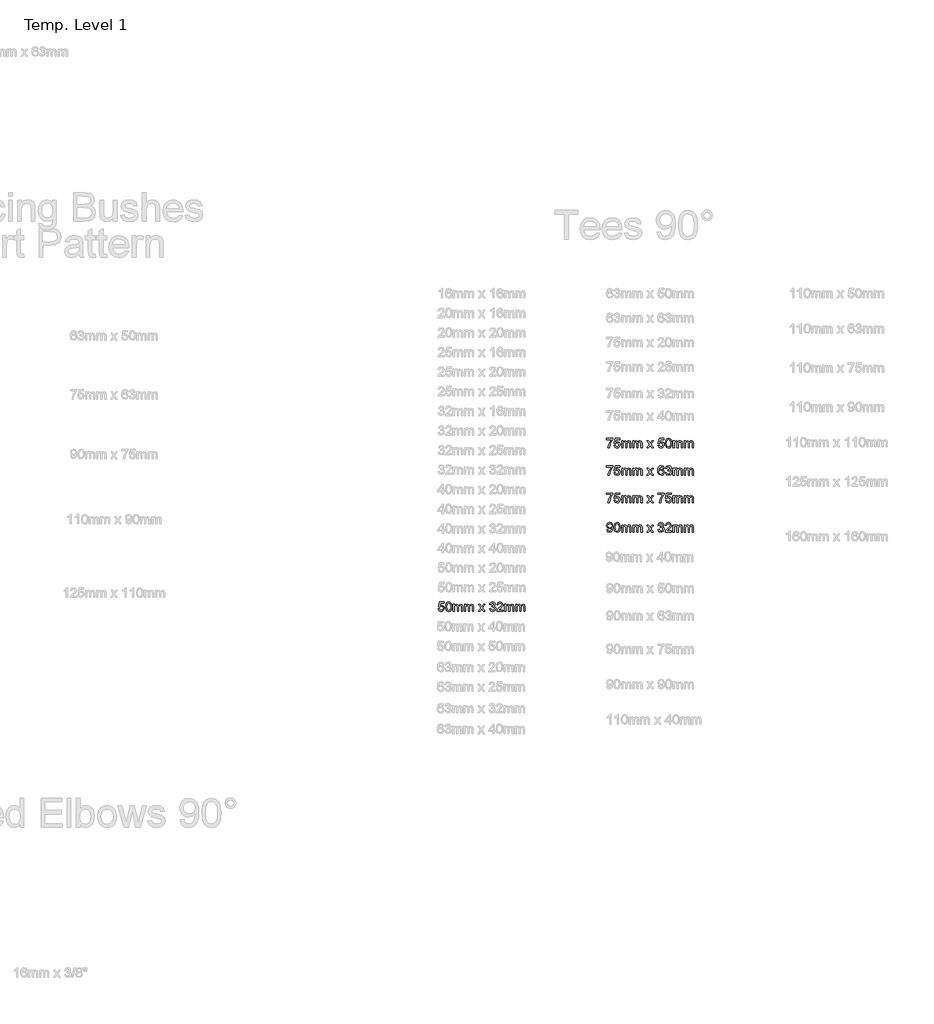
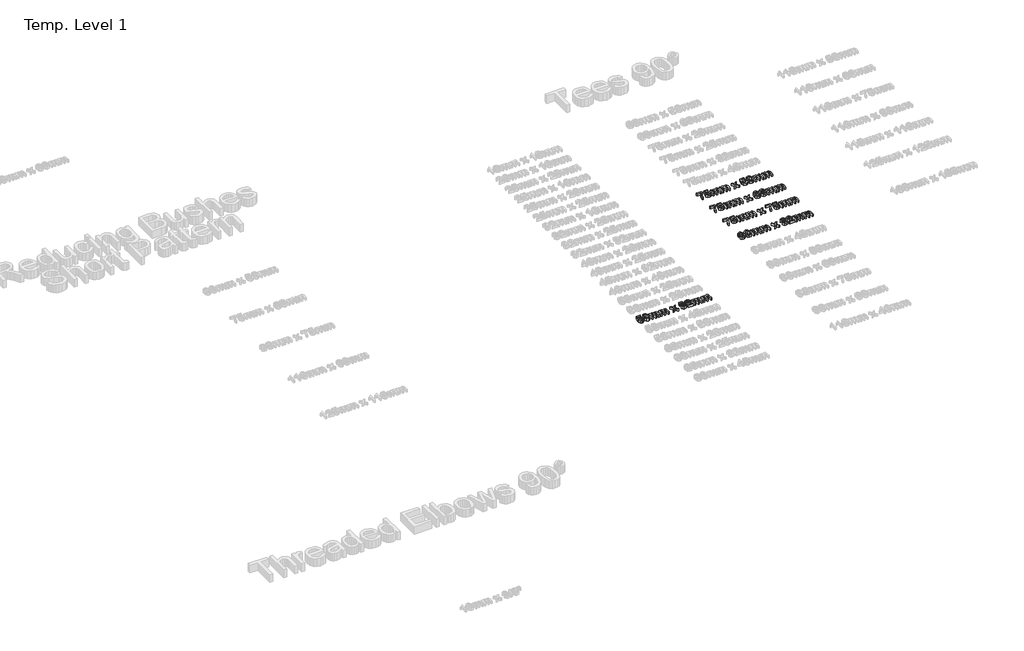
# One storey, part 28 of 62: 5 proxies.
"""IFC4 building model written with IfcOpenShell, lengths in millimetres."""

from ifc_helpers import new_model, si_unit, origin, origin_with_axes, place, context, project, spatial, polyline, outline, extrude, element, save

model = new_model("IFC4")

# Units and contexts
model_context = context("Model", 3, world=origin())
ifc_project = project(units=[si_unit("LENGTHUNIT", "METRE", prefix="MILLI")], contexts=[model_context])

# Site, building, storey
site = spatial("IfcSite", under=ifc_project)
building = spatial("IfcBuilding", under=site)
storey = spatial("IfcBuildingStorey", under=building, Name="Temp. Level 1", Elevation=0.0)

# Proxies
placement = place(None, origin())
element("IfcBuildingElementProxy", 1, Name="50mm Arial", ObjectType="50mm Arial", at=placement, inside=storey, context=model_context, shape_type="SweptSolid", body=[
    extrude(outline(polyline([(26415.7186344, -8956.4795754), (26421.8724806, -8955.7103446), (26424.9734421, -8962.0504888), (26431.4037306, -8964.1718831), (26439.1200767, -8961.2211619), (26441.8724806, -8953.3906331), (26439.2943556, -8946.0829408), (26431.4998844, -8943.4026523), (26426.0972402, -8944.4723638), (26422.6417113, -8947.2488061), (26416.4878652, -8946.4795754), (26421.8724806, -8921.09496), (26445.7186344, -8921.09496), (26445.7186344, -8927.2488061), (26426.8484421, -8927.2488061), (26424.2162306, -8940.8064984), (26433.2186344, -8937.2488061), (26443.741471, -8941.6598638), (26448.0263267, -8953.0060177), (26444.1681536, -8964.4242869), (26438.6272883, -8968.8503686), (26431.3796921, -8970.3257292), (26420.5203171, -8966.5336619), (26415.7186344, -8956.4795754)])), origin_with_axes(), (0.0, 0.0, 1.0), 15.0),
    extrude(outline(polyline([(26453.4109421, -8945.3377484), (26455.2198363, -8931.173085), (26460.5924325, -8923.0060177), (26469.5647883, -8920.3257292), (26476.7522883, -8921.9122677), (26481.7162306, -8926.485585), (26484.600846, -8933.7692388), (26485.7186344, -8945.3377484), (26483.927769, -8959.4423158), (26478.5732017, -8967.6274119), (26469.5647883, -8970.3257292), (26458.3147883, -8965.6382292), (26454.6369036, -8957.3119071), (26453.4109421, -8945.3377484)]), holes=[polyline([(26459.5647883, -8945.3257292), (26462.4494036, -8960.6081811), (26469.5647883, -8964.1718831), (26476.6801729, -8960.5961619), (26479.5647883, -8945.3257292), (26476.7763267, -8930.2175561), (26469.4926729, -8926.4795754), (26462.5455575, -8929.7728446), (26459.5647883, -8945.3257292)])]), origin_with_axes(), (0.0, 0.0, 1.0), 15.0),
    extrude(outline(polyline([(26492.6417113, -8969.5564984), (26492.6417113, -8933.4026523), (26498.7955575, -8933.4026523), (26498.7955575, -8939.3521715), (26503.0263267, -8934.4783734), (26509.0479613, -8932.6334215), (26515.2138267, -8934.5144311), (26518.6032498, -8939.7848638), (26523.4049325, -8934.4212821), (26529.4686344, -8932.6334215), (26537.5155094, -8935.6081811), (26540.334019, -8944.7728446), (26540.334019, -8969.5564984), (26534.1801729, -8969.5564984), (26534.1801729, -8947.4170754), (26533.6092594, -8942.2788542), (26531.5419517, -8939.7488061), (26528.0263267, -8938.7872677), (26521.974644, -8941.25121), (26519.5647883, -8949.1478446), (26519.5647883, -8969.5564984), (26513.4109421, -8969.5564984), (26513.4109421, -8946.7319792), (26511.9866633, -8940.7704408), (26507.3171921, -8938.7872677), (26502.7619036, -8940.1093831), (26499.7330575, -8943.9795754), (26498.7955575, -8951.3233254), (26498.7955575, -8969.5564984), (26492.6417113, -8969.5564984)])), origin_with_axes(), (0.0, 0.0, 1.0), 15.0),
    extrude(outline(polyline([(26549.5647883, -8969.5564984), (26549.5647883, -8933.4026523), (26555.7186344, -8933.4026523), (26555.7186344, -8939.3521715), (26559.9494036, -8934.4783734), (26565.9710383, -8932.6334215), (26572.1369036, -8934.5144311), (26575.5263267, -8939.7848638), (26580.3280094, -8934.4212821), (26586.3917113, -8932.6334215), (26594.4385863, -8935.6081811), (26597.257096, -8944.7728446), (26597.257096, -8969.5564984), (26591.1032498, -8969.5564984), (26591.1032498, -8947.4170754), (26590.5323363, -8942.2788542), (26588.4650286, -8939.7488061), (26584.9494036, -8938.7872677), (26578.897721, -8941.25121), (26576.4878652, -8949.1478446), (26576.4878652, -8969.5564984), (26570.334019, -8969.5564984), (26570.334019, -8946.7319792), (26568.9097402, -8940.7704408), (26564.240269, -8938.7872677), (26559.6849806, -8940.1093831), (26556.6561344, -8943.9795754), (26555.7186344, -8951.3233254), (26555.7186344, -8969.5564984), (26549.5647883, -8969.5564984)])), origin_with_axes(), (0.0, 0.0, 1.0), 15.0),
    extrude(outline(polyline([(26621.8724806, -8969.5564984), (26635.021519, -8951.3834215), (26622.6417113, -8933.4026523), (26630.0455575, -8933.4026523), (26636.0191152, -8942.0564984), (26638.8075767, -8946.1430369), (26641.2234421, -8942.8016908), (26648.0263267, -8933.4026523), (26655.4301729, -8933.4026523), (26642.4253652, -8951.3834215), (26654.9494036, -8969.5564984), (26647.5455575, -8969.5564984), (26640.0094998, -8958.6310177), (26638.6272883, -8956.6358254), (26629.2763267, -8969.5564984), (26621.8724806, -8969.5564984)])), origin_with_axes(), (0.0, 0.0, 1.0), 15.0),
    extrude(outline(polyline([(26678.0263267, -8956.4795754), (26684.1801729, -8955.7103446), (26687.5756056, -8962.18871), (26693.927769, -8964.1718831), (26701.4037306, -8961.4435177), (26704.1801729, -8954.68871), (26701.427769, -8948.3245273), (26694.4325767, -8945.8064984), (26690.1176729, -8946.4795754), (26690.802769, -8940.3257292), (26698.771519, -8938.6310177), (26701.8724806, -8933.1983254), (26699.6248844, -8928.3846234), (26693.8316152, -8926.4795754), (26687.9662306, -8928.4026523), (26684.9494036, -8934.1718831), (26678.7955575, -8933.4026523), (26683.8316152, -8923.75121), (26693.615269, -8920.3257292), (26701.037144, -8922.0144311), (26706.2294517, -8926.6298158), (26708.0263267, -8932.8377484), (26706.319596, -8938.5108254), (26701.271519, -8942.5853446), (26707.9782498, -8946.7920754), (26710.334019, -8954.7968831), (26705.6224806, -8965.8064984), (26693.7114229, -8970.3257292), (26682.9181536, -8966.4675561), (26678.0263267, -8956.4795754)])), origin_with_axes(), (0.0, 0.0, 1.0), 15.0),
    extrude(outline(polyline([(26747.257096, -8963.4026523), (26747.257096, -8969.5564984), (26714.9494036, -8969.5564984), (26715.6104613, -8965.31371), (26719.3484421, -8958.7812581), (26727.052769, -8951.6478446), (26737.677769, -8941.3954408), (26740.334019, -8934.4242869), (26737.8280094, -8928.7812581), (26731.2835383, -8926.4795754), (26724.4626248, -8928.7271715), (26721.8724806, -8934.9411138), (26715.7186344, -8934.1718831), (26720.4361825, -8923.8714023), (26731.4157498, -8920.3257292), (26742.4313748, -8924.2680369), (26746.4878652, -8934.0516908), (26745.3941152, -8939.8870273), (26741.7582979, -8945.9206811), (26732.9421921, -8954.3521715), (26725.8628652, -8960.2716427), (26723.0864229, -8963.4026523), (26747.257096, -8963.4026523)])), origin_with_axes(), (0.0, 0.0, 1.0), 15.0),
    extrude(outline(polyline([(26754.9494036, -8969.5564984), (26754.9494036, -8933.4026523), (26761.1032498, -8933.4026523), (26761.1032498, -8939.3521715), (26765.334019, -8934.4783734), (26771.3556536, -8932.6334215), (26777.521519, -8934.5144311), (26780.9109421, -8939.7848638), (26785.7126248, -8934.4212821), (26791.7763267, -8932.6334215), (26799.8232017, -8935.6081811), (26802.6417113, -8944.7728446), (26802.6417113, -8969.5564984), (26796.4878652, -8969.5564984), (26796.4878652, -8947.4170754), (26795.9169517, -8942.2788542), (26793.849644, -8939.7488061), (26790.334019, -8938.7872677), (26784.2823363, -8941.25121), (26781.8724806, -8949.1478446), (26781.8724806, -8969.5564984), (26775.7186344, -8969.5564984), (26775.7186344, -8946.7319792), (26774.2943556, -8940.7704408), (26769.6248844, -8938.7872677), (26765.069596, -8940.1093831), (26762.0407498, -8943.9795754), (26761.1032498, -8951.3233254), (26761.1032498, -8969.5564984), (26754.9494036, -8969.5564984)])), origin_with_axes(), (0.0, 0.0, 1.0), 15.0),
    extrude(outline(polyline([(26811.8724806, -8969.5564984), (26811.8724806, -8933.4026523), (26818.0263267, -8933.4026523), (26818.0263267, -8939.3521715), (26822.257096, -8934.4783734), (26828.2787306, -8932.6334215), (26834.444596, -8934.5144311), (26837.834019, -8939.7848638), (26842.6357017, -8934.4212821), (26848.6994036, -8932.6334215), (26856.7462786, -8935.6081811), (26859.5647883, -8944.7728446), (26859.5647883, -8969.5564984), (26853.4109421, -8969.5564984), (26853.4109421, -8947.4170754), (26852.8400286, -8942.2788542), (26850.772721, -8939.7488061), (26847.257096, -8938.7872677), (26841.2054133, -8941.25121), (26838.7955575, -8949.1478446), (26838.7955575, -8969.5564984), (26832.6417113, -8969.5564984), (26832.6417113, -8946.7319792), (26831.2174325, -8940.7704408), (26826.5479613, -8938.7872677), (26821.9926729, -8940.1093831), (26818.9638267, -8943.9795754), (26818.0263267, -8951.3233254), (26818.0263267, -8969.5564984), (26811.8724806, -8969.5564984)])), origin_with_axes(), (0.0, 0.0, 1.0), 15.0),
])
element("IfcBuildingElementProxy", 2, Name="50mm Arial", ObjectType="50mm Arial", at=placement, inside=storey, context=model_context, shape_type="SweptSolid", body=[
    extrude(outline(polyline([(27275.7186344, -8092.2488061), (27275.7186344, -8086.09496), (27308.0263267, -8086.09496), (27308.0263267, -8091.0709215), (27298.8616633, -8104.3101042), (27291.8484421, -8121.1790946), (27289.5647883, -8134.5564984), (27283.4109421, -8134.5564984), (27285.8568556, -8120.6742869), (27292.569596, -8104.9831811), (27301.8724806, -8092.2488061), (27275.7186344, -8092.2488061)])), origin_with_axes(), (0.0, 0.0, 1.0), 15.0),
    extrude(outline(polyline([(27313.4109421, -8121.4795754), (27319.5647883, -8120.7103446), (27322.6657498, -8127.0504888), (27329.0960383, -8129.1718831), (27336.8123844, -8126.2211619), (27339.5647883, -8118.3906331), (27336.9866633, -8111.0829408), (27329.1921921, -8108.4026523), (27323.7895479, -8109.4723638), (27320.334019, -8112.2488061), (27314.1801729, -8111.4795754), (27319.5647883, -8086.09496), (27343.4109421, -8086.09496), (27343.4109421, -8092.2488061), (27324.5407498, -8092.2488061), (27321.9085383, -8105.8064984), (27330.9109421, -8102.2488061), (27341.4337786, -8106.6598638), (27345.7186344, -8118.0060177), (27341.8604613, -8129.4242869), (27336.319596, -8133.8503686), (27329.0719998, -8135.3257292), (27318.2126248, -8131.5336619), (27313.4109421, -8121.4795754)])), origin_with_axes(), (0.0, 0.0, 1.0), 15.0),
    extrude(outline(polyline([(27352.6417113, -8134.5564984), (27352.6417113, -8098.4026523), (27358.7955575, -8098.4026523), (27358.7955575, -8104.3521715), (27363.0263267, -8099.4783734), (27369.0479613, -8097.6334215), (27375.2138267, -8099.5144311), (27378.6032498, -8104.7848638), (27383.4049325, -8099.4212821), (27389.4686344, -8097.6334215), (27397.5155094, -8100.6081811), (27400.334019, -8109.7728446), (27400.334019, -8134.5564984), (27394.1801729, -8134.5564984), (27394.1801729, -8112.4170754), (27393.6092594, -8107.2788542), (27391.5419517, -8104.7488061), (27388.0263267, -8103.7872677), (27381.974644, -8106.25121), (27379.5647883, -8114.1478446), (27379.5647883, -8134.5564984), (27373.4109421, -8134.5564984), (27373.4109421, -8111.7319792), (27371.9866633, -8105.7704408), (27367.3171921, -8103.7872677), (27362.7619036, -8105.1093831), (27359.7330575, -8108.9795754), (27358.7955575, -8116.3233254), (27358.7955575, -8134.5564984), (27352.6417113, -8134.5564984)])), origin_with_axes(), (0.0, 0.0, 1.0), 15.0),
    extrude(outline(polyline([(27409.5647883, -8134.5564984), (27409.5647883, -8098.4026523), (27415.7186344, -8098.4026523), (27415.7186344, -8104.3521715), (27419.9494036, -8099.4783734), (27425.9710383, -8097.6334215), (27432.1369036, -8099.5144311), (27435.5263267, -8104.7848638), (27440.3280094, -8099.4212821), (27446.3917113, -8097.6334215), (27454.4385863, -8100.6081811), (27457.257096, -8109.7728446), (27457.257096, -8134.5564984), (27451.1032498, -8134.5564984), (27451.1032498, -8112.4170754), (27450.5323363, -8107.2788542), (27448.4650286, -8104.7488061), (27444.9494036, -8103.7872677), (27438.897721, -8106.25121), (27436.4878652, -8114.1478446), (27436.4878652, -8134.5564984), (27430.334019, -8134.5564984), (27430.334019, -8111.7319792), (27428.9097402, -8105.7704408), (27424.240269, -8103.7872677), (27419.6849806, -8105.1093831), (27416.6561344, -8108.9795754), (27415.7186344, -8116.3233254), (27415.7186344, -8134.5564984), (27409.5647883, -8134.5564984)])), origin_with_axes(), (0.0, 0.0, 1.0), 15.0),
    extrude(outline(polyline([(27481.8724806, -8134.5564984), (27495.021519, -8116.3834215), (27482.6417113, -8098.4026523), (27490.0455575, -8098.4026523), (27496.0191152, -8107.0564984), (27498.8075767, -8111.1430369), (27501.2234421, -8107.8016908), (27508.0263267, -8098.4026523), (27515.4301729, -8098.4026523), (27502.4253652, -8116.3834215), (27514.9494036, -8134.5564984), (27507.5455575, -8134.5564984), (27500.0094998, -8123.6310177), (27498.6272883, -8121.6358254), (27489.2763267, -8134.5564984), (27481.8724806, -8134.5564984)])), origin_with_axes(), (0.0, 0.0, 1.0), 15.0),
    extrude(outline(polyline([(27538.0263267, -8121.4795754), (27544.1801729, -8120.7103446), (27547.2811344, -8127.0504888), (27553.7114229, -8129.1718831), (27561.427769, -8126.2211619), (27564.1801729, -8118.3906331), (27561.6020479, -8111.0829408), (27553.8075767, -8108.4026523), (27548.4049325, -8109.4723638), (27544.9494036, -8112.2488061), (27538.7955575, -8111.4795754), (27544.1801729, -8086.09496), (27568.0263267, -8086.09496), (27568.0263267, -8092.2488061), (27549.1561344, -8092.2488061), (27546.5239229, -8105.8064984), (27555.5263267, -8102.2488061), (27566.0491633, -8106.6598638), (27570.334019, -8118.0060177), (27566.475846, -8129.4242869), (27560.9349806, -8133.8503686), (27553.6873844, -8135.3257292), (27542.8280094, -8131.5336619), (27538.0263267, -8121.4795754)])), origin_with_axes(), (0.0, 0.0, 1.0), 15.0),
    extrude(outline(polyline([(27575.7186344, -8110.3377484), (27577.5275286, -8096.173085), (27582.9001248, -8088.0060177), (27591.8724806, -8085.3257292), (27599.0599806, -8086.9122677), (27604.0239229, -8091.485585), (27606.9085383, -8098.7692388), (27608.0263267, -8110.3377484), (27606.2354613, -8124.4423158), (27600.880894, -8132.6274119), (27591.8724806, -8135.3257292), (27580.6224806, -8130.6382292), (27576.944596, -8122.3119071), (27575.7186344, -8110.3377484)]), holes=[polyline([(27581.8724806, -8110.3257292), (27584.757096, -8125.6081811), (27591.8724806, -8129.1718831), (27598.9878652, -8125.5961619), (27601.8724806, -8110.3257292), (27599.084019, -8095.2175561), (27591.8003652, -8091.4795754), (27584.8532498, -8094.7728446), (27581.8724806, -8110.3257292)])]), origin_with_axes(), (0.0, 0.0, 1.0), 15.0),
    extrude(outline(polyline([(27614.9494036, -8134.5564984), (27614.9494036, -8098.4026523), (27621.1032498, -8098.4026523), (27621.1032498, -8104.3521715), (27625.334019, -8099.4783734), (27631.3556536, -8097.6334215), (27637.521519, -8099.5144311), (27640.9109421, -8104.7848638), (27645.7126248, -8099.4212821), (27651.7763267, -8097.6334215), (27659.8232017, -8100.6081811), (27662.6417113, -8109.7728446), (27662.6417113, -8134.5564984), (27656.4878652, -8134.5564984), (27656.4878652, -8112.4170754), (27655.9169517, -8107.2788542), (27653.849644, -8104.7488061), (27650.334019, -8103.7872677), (27644.2823363, -8106.25121), (27641.8724806, -8114.1478446), (27641.8724806, -8134.5564984), (27635.7186344, -8134.5564984), (27635.7186344, -8111.7319792), (27634.2943556, -8105.7704408), (27629.6248844, -8103.7872677), (27625.069596, -8105.1093831), (27622.0407498, -8108.9795754), (27621.1032498, -8116.3233254), (27621.1032498, -8134.5564984), (27614.9494036, -8134.5564984)])), origin_with_axes(), (0.0, 0.0, 1.0), 15.0),
    extrude(outline(polyline([(27671.8724806, -8134.5564984), (27671.8724806, -8098.4026523), (27678.0263267, -8098.4026523), (27678.0263267, -8104.3521715), (27682.257096, -8099.4783734), (27688.2787306, -8097.6334215), (27694.444596, -8099.5144311), (27697.834019, -8104.7848638), (27702.6357017, -8099.4212821), (27708.6994036, -8097.6334215), (27716.7462786, -8100.6081811), (27719.5647883, -8109.7728446), (27719.5647883, -8134.5564984), (27713.4109421, -8134.5564984), (27713.4109421, -8112.4170754), (27712.8400286, -8107.2788542), (27710.772721, -8104.7488061), (27707.257096, -8103.7872677), (27701.2054133, -8106.25121), (27698.7955575, -8114.1478446), (27698.7955575, -8134.5564984), (27692.6417113, -8134.5564984), (27692.6417113, -8111.7319792), (27691.2174325, -8105.7704408), (27686.5479613, -8103.7872677), (27681.9926729, -8105.1093831), (27678.9638267, -8108.9795754), (27678.0263267, -8116.3233254), (27678.0263267, -8134.5564984), (27671.8724806, -8134.5564984)])), origin_with_axes(), (0.0, 0.0, 1.0), 15.0),
])
element("IfcBuildingElementProxy", 3, Name="50mm Arial", ObjectType="50mm Arial", at=placement, inside=storey, context=model_context, shape_type="SweptSolid", body=[
    extrude(outline(polyline([(27275.7186344, -8232.2488061), (27275.7186344, -8226.09496), (27308.0263267, -8226.09496), (27308.0263267, -8231.0709215), (27298.8616633, -8244.3101042), (27291.8484421, -8261.1790946), (27289.5647883, -8274.5564984), (27283.4109421, -8274.5564984), (27285.8568556, -8260.6742869), (27292.569596, -8244.9831811), (27301.8724806, -8232.2488061), (27275.7186344, -8232.2488061)])), origin_with_axes(), (0.0, 0.0, 1.0), 15.0),
    extrude(outline(polyline([(27313.4109421, -8261.4795754), (27319.5647883, -8260.7103446), (27322.6657498, -8267.0504888), (27329.0960383, -8269.1718831), (27336.8123844, -8266.2211619), (27339.5647883, -8258.3906331), (27336.9866633, -8251.0829408), (27329.1921921, -8248.4026523), (27323.7895479, -8249.4723638), (27320.334019, -8252.2488061), (27314.1801729, -8251.4795754), (27319.5647883, -8226.09496), (27343.4109421, -8226.09496), (27343.4109421, -8232.2488061), (27324.5407498, -8232.2488061), (27321.9085383, -8245.8064984), (27330.9109421, -8242.2488061), (27341.4337786, -8246.6598638), (27345.7186344, -8258.0060177), (27341.8604613, -8269.4242869), (27336.319596, -8273.8503686), (27329.0719998, -8275.3257292), (27318.2126248, -8271.5336619), (27313.4109421, -8261.4795754)])), origin_with_axes(), (0.0, 0.0, 1.0), 15.0),
    extrude(outline(polyline([(27352.6417113, -8274.5564984), (27352.6417113, -8238.4026523), (27358.7955575, -8238.4026523), (27358.7955575, -8244.3521715), (27363.0263267, -8239.4783734), (27369.0479613, -8237.6334215), (27375.2138267, -8239.5144311), (27378.6032498, -8244.7848638), (27383.4049325, -8239.4212821), (27389.4686344, -8237.6334215), (27397.5155094, -8240.6081811), (27400.334019, -8249.7728446), (27400.334019, -8274.5564984), (27394.1801729, -8274.5564984), (27394.1801729, -8252.4170754), (27393.6092594, -8247.2788542), (27391.5419517, -8244.7488061), (27388.0263267, -8243.7872677), (27381.974644, -8246.25121), (27379.5647883, -8254.1478446), (27379.5647883, -8274.5564984), (27373.4109421, -8274.5564984), (27373.4109421, -8251.7319792), (27371.9866633, -8245.7704408), (27367.3171921, -8243.7872677), (27362.7619036, -8245.1093831), (27359.7330575, -8248.9795754), (27358.7955575, -8256.3233254), (27358.7955575, -8274.5564984), (27352.6417113, -8274.5564984)])), origin_with_axes(), (0.0, 0.0, 1.0), 15.0),
    extrude(outline(polyline([(27409.5647883, -8274.5564984), (27409.5647883, -8238.4026523), (27415.7186344, -8238.4026523), (27415.7186344, -8244.3521715), (27419.9494036, -8239.4783734), (27425.9710383, -8237.6334215), (27432.1369036, -8239.5144311), (27435.5263267, -8244.7848638), (27440.3280094, -8239.4212821), (27446.3917113, -8237.6334215), (27454.4385863, -8240.6081811), (27457.257096, -8249.7728446), (27457.257096, -8274.5564984), (27451.1032498, -8274.5564984), (27451.1032498, -8252.4170754), (27450.5323363, -8247.2788542), (27448.4650286, -8244.7488061), (27444.9494036, -8243.7872677), (27438.897721, -8246.25121), (27436.4878652, -8254.1478446), (27436.4878652, -8274.5564984), (27430.334019, -8274.5564984), (27430.334019, -8251.7319792), (27428.9097402, -8245.7704408), (27424.240269, -8243.7872677), (27419.6849806, -8245.1093831), (27416.6561344, -8248.9795754), (27415.7186344, -8256.3233254), (27415.7186344, -8274.5564984), (27409.5647883, -8274.5564984)])), origin_with_axes(), (0.0, 0.0, 1.0), 15.0),
    extrude(outline(polyline([(27481.8724806, -8274.5564984), (27495.021519, -8256.3834215), (27482.6417113, -8238.4026523), (27490.0455575, -8238.4026523), (27496.0191152, -8247.0564984), (27498.8075767, -8251.1430369), (27501.2234421, -8247.8016908), (27508.0263267, -8238.4026523), (27515.4301729, -8238.4026523), (27502.4253652, -8256.3834215), (27514.9494036, -8274.5564984), (27507.5455575, -8274.5564984), (27500.0094998, -8263.6310177), (27498.6272883, -8261.6358254), (27489.2763267, -8274.5564984), (27481.8724806, -8274.5564984)])), origin_with_axes(), (0.0, 0.0, 1.0), 15.0),
    extrude(outline(polyline([(27569.5647883, -8238.4026523), (27563.4109421, -8239.1718831), (27561.0792113, -8234.0396715), (27554.913346, -8231.4795754), (27549.3604613, -8232.96996), (27545.1597402, -8238.5649119), (27543.4109421, -8249.53246), (27548.8376248, -8244.6226042), (27555.5623844, -8243.0180369), (27566.0191152, -8247.4050561), (27570.334019, -8258.7391908), (27568.302769, -8267.2307773), (27562.7138267, -8273.2403927), (27554.6489229, -8275.3257292), (27542.1068556, -8269.7968831), (27538.4695359, -8262.4771715), (27537.257096, -8251.5757292), (27538.6032498, -8239.3191186), (27542.6417113, -8230.93871), (27548.1555335, -8226.7289744), (27555.2979613, -8225.3257292), (27565.021519, -8228.7992869), (27569.5647883, -8238.4026523)]), holes=[polyline([(27543.4109421, -8258.6430369), (27544.835221, -8263.9735658), (27548.6212786, -8267.8437581), (27554.1681536, -8269.1718831), (27561.4217594, -8266.4194792), (27564.1801729, -8258.9435177), (27561.4578171, -8251.7860658), (27553.9157498, -8249.1718831), (27546.4698363, -8251.7860658), (27543.4109421, -8258.6430369)])]), origin_with_axes(), (0.0, 0.0, 1.0), 15.0),
    extrude(outline(polyline([(27575.7186344, -8261.4795754), (27581.8724806, -8260.7103446), (27585.2679133, -8267.18871), (27591.6200767, -8269.1718831), (27599.0960383, -8266.4435177), (27601.8724806, -8259.68871), (27599.1200767, -8253.3245273), (27592.1248844, -8250.8064984), (27587.8099806, -8251.4795754), (27588.4950767, -8245.3257292), (27596.4638267, -8243.6310177), (27599.5647883, -8238.1983254), (27597.3171921, -8233.3846234), (27591.5239229, -8231.4795754), (27585.6585383, -8233.4026523), (27582.6417113, -8239.1718831), (27576.4878652, -8238.4026523), (27581.5239229, -8228.75121), (27591.3075767, -8225.3257292), (27598.7294517, -8227.0144311), (27603.9217594, -8231.6298158), (27605.7186344, -8237.8377484), (27604.0119036, -8243.5108254), (27598.9638267, -8247.5853446), (27605.6705575, -8251.7920754), (27608.0263267, -8259.7968831), (27603.3147883, -8270.8064984), (27591.4037306, -8275.3257292), (27580.6104613, -8271.4675561), (27575.7186344, -8261.4795754)])), origin_with_axes(), (0.0, 0.0, 1.0), 15.0),
    extrude(outline(polyline([(27614.9494036, -8274.5564984), (27614.9494036, -8238.4026523), (27621.1032498, -8238.4026523), (27621.1032498, -8244.3521715), (27625.334019, -8239.4783734), (27631.3556536, -8237.6334215), (27637.521519, -8239.5144311), (27640.9109421, -8244.7848638), (27645.7126248, -8239.4212821), (27651.7763267, -8237.6334215), (27659.8232017, -8240.6081811), (27662.6417113, -8249.7728446), (27662.6417113, -8274.5564984), (27656.4878652, -8274.5564984), (27656.4878652, -8252.4170754), (27655.9169517, -8247.2788542), (27653.849644, -8244.7488061), (27650.334019, -8243.7872677), (27644.2823363, -8246.25121), (27641.8724806, -8254.1478446), (27641.8724806, -8274.5564984), (27635.7186344, -8274.5564984), (27635.7186344, -8251.7319792), (27634.2943556, -8245.7704408), (27629.6248844, -8243.7872677), (27625.069596, -8245.1093831), (27622.0407498, -8248.9795754), (27621.1032498, -8256.3233254), (27621.1032498, -8274.5564984), (27614.9494036, -8274.5564984)])), origin_with_axes(), (0.0, 0.0, 1.0), 15.0),
    extrude(outline(polyline([(27671.8724806, -8274.5564984), (27671.8724806, -8238.4026523), (27678.0263267, -8238.4026523), (27678.0263267, -8244.3521715), (27682.257096, -8239.4783734), (27688.2787306, -8237.6334215), (27694.444596, -8239.5144311), (27697.834019, -8244.7848638), (27702.6357017, -8239.4212821), (27708.6994036, -8237.6334215), (27716.7462786, -8240.6081811), (27719.5647883, -8249.7728446), (27719.5647883, -8274.5564984), (27713.4109421, -8274.5564984), (27713.4109421, -8252.4170754), (27712.8400286, -8247.2788542), (27710.772721, -8244.7488061), (27707.257096, -8243.7872677), (27701.2054133, -8246.25121), (27698.7955575, -8254.1478446), (27698.7955575, -8274.5564984), (27692.6417113, -8274.5564984), (27692.6417113, -8251.7319792), (27691.2174325, -8245.7704408), (27686.5479613, -8243.7872677), (27681.9926729, -8245.1093831), (27678.9638267, -8248.9795754), (27678.0263267, -8256.3233254), (27678.0263267, -8274.5564984), (27671.8724806, -8274.5564984)])), origin_with_axes(), (0.0, 0.0, 1.0), 15.0),
])
element("IfcBuildingElementProxy", 4, Name="50mm Arial", ObjectType="50mm Arial", at=placement, inside=storey, context=model_context, shape_type="SweptSolid", body=[
    extrude(outline(polyline([(27275.7186344, -8372.2488061), (27275.7186344, -8366.09496), (27308.0263267, -8366.09496), (27308.0263267, -8371.0709215), (27298.8616633, -8384.3101042), (27291.8484421, -8401.1790946), (27289.5647883, -8414.5564984), (27283.4109421, -8414.5564984), (27285.8568556, -8400.6742869), (27292.569596, -8384.9831811), (27301.8724806, -8372.2488061), (27275.7186344, -8372.2488061)])), origin_with_axes(), (0.0, 0.0, 1.0), 15.0),
    extrude(outline(polyline([(27313.4109421, -8401.4795754), (27319.5647883, -8400.7103446), (27322.6657498, -8407.0504888), (27329.0960383, -8409.1718831), (27336.8123844, -8406.2211619), (27339.5647883, -8398.3906331), (27336.9866633, -8391.0829408), (27329.1921921, -8388.4026523), (27323.7895479, -8389.4723638), (27320.334019, -8392.2488061), (27314.1801729, -8391.4795754), (27319.5647883, -8366.09496), (27343.4109421, -8366.09496), (27343.4109421, -8372.2488061), (27324.5407498, -8372.2488061), (27321.9085383, -8385.8064984), (27330.9109421, -8382.2488061), (27341.4337786, -8386.6598638), (27345.7186344, -8398.0060177), (27341.8604613, -8409.4242869), (27336.319596, -8413.8503686), (27329.0719998, -8415.3257292), (27318.2126248, -8411.5336619), (27313.4109421, -8401.4795754)])), origin_with_axes(), (0.0, 0.0, 1.0), 15.0),
    extrude(outline(polyline([(27352.6417113, -8414.5564984), (27352.6417113, -8378.4026523), (27358.7955575, -8378.4026523), (27358.7955575, -8384.3521715), (27363.0263267, -8379.4783734), (27369.0479613, -8377.6334215), (27375.2138267, -8379.5144311), (27378.6032498, -8384.7848638), (27383.4049325, -8379.4212821), (27389.4686344, -8377.6334215), (27397.5155094, -8380.6081811), (27400.334019, -8389.7728446), (27400.334019, -8414.5564984), (27394.1801729, -8414.5564984), (27394.1801729, -8392.4170754), (27393.6092594, -8387.2788542), (27391.5419517, -8384.7488061), (27388.0263267, -8383.7872677), (27381.974644, -8386.25121), (27379.5647883, -8394.1478446), (27379.5647883, -8414.5564984), (27373.4109421, -8414.5564984), (27373.4109421, -8391.7319792), (27371.9866633, -8385.7704408), (27367.3171921, -8383.7872677), (27362.7619036, -8385.1093831), (27359.7330575, -8388.9795754), (27358.7955575, -8396.3233254), (27358.7955575, -8414.5564984), (27352.6417113, -8414.5564984)])), origin_with_axes(), (0.0, 0.0, 1.0), 15.0),
    extrude(outline(polyline([(27409.5647883, -8414.5564984), (27409.5647883, -8378.4026523), (27415.7186344, -8378.4026523), (27415.7186344, -8384.3521715), (27419.9494036, -8379.4783734), (27425.9710383, -8377.6334215), (27432.1369036, -8379.5144311), (27435.5263267, -8384.7848638), (27440.3280094, -8379.4212821), (27446.3917113, -8377.6334215), (27454.4385863, -8380.6081811), (27457.257096, -8389.7728446), (27457.257096, -8414.5564984), (27451.1032498, -8414.5564984), (27451.1032498, -8392.4170754), (27450.5323363, -8387.2788542), (27448.4650286, -8384.7488061), (27444.9494036, -8383.7872677), (27438.897721, -8386.25121), (27436.4878652, -8394.1478446), (27436.4878652, -8414.5564984), (27430.334019, -8414.5564984), (27430.334019, -8391.7319792), (27428.9097402, -8385.7704408), (27424.240269, -8383.7872677), (27419.6849806, -8385.1093831), (27416.6561344, -8388.9795754), (27415.7186344, -8396.3233254), (27415.7186344, -8414.5564984), (27409.5647883, -8414.5564984)])), origin_with_axes(), (0.0, 0.0, 1.0), 15.0),
    extrude(outline(polyline([(27481.8724806, -8414.5564984), (27495.021519, -8396.3834215), (27482.6417113, -8378.4026523), (27490.0455575, -8378.4026523), (27496.0191152, -8387.0564984), (27498.8075767, -8391.1430369), (27501.2234421, -8387.8016908), (27508.0263267, -8378.4026523), (27515.4301729, -8378.4026523), (27502.4253652, -8396.3834215), (27514.9494036, -8414.5564984), (27507.5455575, -8414.5564984), (27500.0094998, -8403.6310177), (27498.6272883, -8401.6358254), (27489.2763267, -8414.5564984), (27481.8724806, -8414.5564984)])), origin_with_axes(), (0.0, 0.0, 1.0), 15.0),
    extrude(outline(polyline([(27538.0263267, -8372.2488061), (27538.0263267, -8366.09496), (27570.334019, -8366.09496), (27570.334019, -8371.0709215), (27561.1693556, -8384.3101042), (27554.1561344, -8401.1790946), (27551.8724806, -8414.5564984), (27545.7186344, -8414.5564984), (27548.1645479, -8400.6742869), (27554.8772883, -8384.9831811), (27564.1801729, -8372.2488061), (27538.0263267, -8372.2488061)])), origin_with_axes(), (0.0, 0.0, 1.0), 15.0),
    extrude(outline(polyline([(27575.7186344, -8401.4795754), (27581.8724806, -8400.7103446), (27584.9734421, -8407.0504888), (27591.4037306, -8409.1718831), (27599.1200767, -8406.2211619), (27601.8724806, -8398.3906331), (27599.2943556, -8391.0829408), (27591.4998844, -8388.4026523), (27586.0972402, -8389.4723638), (27582.6417113, -8392.2488061), (27576.4878652, -8391.4795754), (27581.8724806, -8366.09496), (27605.7186344, -8366.09496), (27605.7186344, -8372.2488061), (27586.8484421, -8372.2488061), (27584.2162306, -8385.8064984), (27593.2186344, -8382.2488061), (27603.741471, -8386.6598638), (27608.0263267, -8398.0060177), (27604.1681536, -8409.4242869), (27598.6272883, -8413.8503686), (27591.3796921, -8415.3257292), (27580.5203171, -8411.5336619), (27575.7186344, -8401.4795754)])), origin_with_axes(), (0.0, 0.0, 1.0), 15.0),
    extrude(outline(polyline([(27614.9494036, -8414.5564984), (27614.9494036, -8378.4026523), (27621.1032498, -8378.4026523), (27621.1032498, -8384.3521715), (27625.334019, -8379.4783734), (27631.3556536, -8377.6334215), (27637.521519, -8379.5144311), (27640.9109421, -8384.7848638), (27645.7126248, -8379.4212821), (27651.7763267, -8377.6334215), (27659.8232017, -8380.6081811), (27662.6417113, -8389.7728446), (27662.6417113, -8414.5564984), (27656.4878652, -8414.5564984), (27656.4878652, -8392.4170754), (27655.9169517, -8387.2788542), (27653.849644, -8384.7488061), (27650.334019, -8383.7872677), (27644.2823363, -8386.25121), (27641.8724806, -8394.1478446), (27641.8724806, -8414.5564984), (27635.7186344, -8414.5564984), (27635.7186344, -8391.7319792), (27634.2943556, -8385.7704408), (27629.6248844, -8383.7872677), (27625.069596, -8385.1093831), (27622.0407498, -8388.9795754), (27621.1032498, -8396.3233254), (27621.1032498, -8414.5564984), (27614.9494036, -8414.5564984)])), origin_with_axes(), (0.0, 0.0, 1.0), 15.0),
    extrude(outline(polyline([(27671.8724806, -8414.5564984), (27671.8724806, -8378.4026523), (27678.0263267, -8378.4026523), (27678.0263267, -8384.3521715), (27682.257096, -8379.4783734), (27688.2787306, -8377.6334215), (27694.444596, -8379.5144311), (27697.834019, -8384.7848638), (27702.6357017, -8379.4212821), (27708.6994036, -8377.6334215), (27716.7462786, -8380.6081811), (27719.5647883, -8389.7728446), (27719.5647883, -8414.5564984), (27713.4109421, -8414.5564984), (27713.4109421, -8392.4170754), (27712.8400286, -8387.2788542), (27710.772721, -8384.7488061), (27707.257096, -8383.7872677), (27701.2054133, -8386.25121), (27698.7955575, -8394.1478446), (27698.7955575, -8414.5564984), (27692.6417113, -8414.5564984), (27692.6417113, -8391.7319792), (27691.2174325, -8385.7704408), (27686.5479613, -8383.7872677), (27681.9926729, -8385.1093831), (27678.9638267, -8388.9795754), (27678.0263267, -8396.3233254), (27678.0263267, -8414.5564984), (27671.8724806, -8414.5564984)])), origin_with_axes(), (0.0, 0.0, 1.0), 15.0),
])
element("IfcBuildingElementProxy", 5, Name="50mm Arial", ObjectType="50mm Arial", at=placement, inside=storey, context=model_context, shape_type="SweptSolid", body=[
    extrude(outline(polyline([(27276.4878652, -8552.2488061), (27282.6417113, -8551.4795754), (27285.4061344, -8557.3509696), (27290.646519, -8559.1718831), (27295.6284902, -8558.0000081), (27299.005894, -8554.8689984), (27301.0191152, -8549.5204408), (27301.9085383, -8542.3810177), (27296.9506056, -8545.8425561), (27290.2018075, -8547.6334215), (27279.9193556, -8543.2584215), (27275.7186344, -8531.7319792), (27280.1236825, -8519.8329408), (27291.163346, -8515.3257292), (27299.9313748, -8517.8978446), (27305.9650286, -8525.2295754), (27308.0263267, -8539.0036138), (27305.9710383, -8553.9495273), (27299.8592594, -8562.4170754), (27290.3580575, -8565.3257292), (27280.8989229, -8561.8942388), (27276.4878652, -8552.2488061)]), holes=[polyline([(27301.8724806, -8531.5877484), (27299.2162306, -8524.2079408), (27292.1609421, -8521.4795754), (27284.757096, -8524.4182773), (27281.8724806, -8532.03246), (27284.600846, -8538.8533734), (27291.9926729, -8541.4795754), (27299.0900286, -8538.8533734), (27301.8724806, -8531.5877484)])]), origin_with_axes(), (0.0, 0.0, 1.0), 15.0),
    extrude(outline(polyline([(27313.4109421, -8540.3377484), (27315.2198363, -8526.173085), (27320.5924325, -8518.0060177), (27329.5647883, -8515.3257292), (27336.7522883, -8516.9122677), (27341.7162306, -8521.485585), (27344.600846, -8528.7692388), (27345.7186344, -8540.3377484), (27343.927769, -8554.4423158), (27338.5732017, -8562.6274119), (27329.5647883, -8565.3257292), (27318.3147883, -8560.6382292), (27314.6369036, -8552.3119071), (27313.4109421, -8540.3377484)]), holes=[polyline([(27319.5647883, -8540.3257292), (27322.4494036, -8555.6081811), (27329.5647883, -8559.1718831), (27336.6801729, -8555.5961619), (27339.5647883, -8540.3257292), (27336.7763267, -8525.2175561), (27329.4926729, -8521.4795754), (27322.5455575, -8524.7728446), (27319.5647883, -8540.3257292)])]), origin_with_axes(), (0.0, 0.0, 1.0), 15.0),
    extrude(outline(polyline([(27352.6417113, -8564.5564984), (27352.6417113, -8528.4026523), (27358.7955575, -8528.4026523), (27358.7955575, -8534.3521715), (27363.0263267, -8529.4783734), (27369.0479613, -8527.6334215), (27375.2138267, -8529.5144311), (27378.6032498, -8534.7848638), (27383.4049325, -8529.4212821), (27389.4686344, -8527.6334215), (27397.5155094, -8530.6081811), (27400.334019, -8539.7728446), (27400.334019, -8564.5564984), (27394.1801729, -8564.5564984), (27394.1801729, -8542.4170754), (27393.6092594, -8537.2788542), (27391.5419517, -8534.7488061), (27388.0263267, -8533.7872677), (27381.974644, -8536.25121), (27379.5647883, -8544.1478446), (27379.5647883, -8564.5564984), (27373.4109421, -8564.5564984), (27373.4109421, -8541.7319792), (27371.9866633, -8535.7704408), (27367.3171921, -8533.7872677), (27362.7619036, -8535.1093831), (27359.7330575, -8538.9795754), (27358.7955575, -8546.3233254), (27358.7955575, -8564.5564984), (27352.6417113, -8564.5564984)])), origin_with_axes(), (0.0, 0.0, 1.0), 15.0),
    extrude(outline(polyline([(27409.5647883, -8564.5564984), (27409.5647883, -8528.4026523), (27415.7186344, -8528.4026523), (27415.7186344, -8534.3521715), (27419.9494036, -8529.4783734), (27425.9710383, -8527.6334215), (27432.1369036, -8529.5144311), (27435.5263267, -8534.7848638), (27440.3280094, -8529.4212821), (27446.3917113, -8527.6334215), (27454.4385863, -8530.6081811), (27457.257096, -8539.7728446), (27457.257096, -8564.5564984), (27451.1032498, -8564.5564984), (27451.1032498, -8542.4170754), (27450.5323363, -8537.2788542), (27448.4650286, -8534.7488061), (27444.9494036, -8533.7872677), (27438.897721, -8536.25121), (27436.4878652, -8544.1478446), (27436.4878652, -8564.5564984), (27430.334019, -8564.5564984), (27430.334019, -8541.7319792), (27428.9097402, -8535.7704408), (27424.240269, -8533.7872677), (27419.6849806, -8535.1093831), (27416.6561344, -8538.9795754), (27415.7186344, -8546.3233254), (27415.7186344, -8564.5564984), (27409.5647883, -8564.5564984)])), origin_with_axes(), (0.0, 0.0, 1.0), 15.0),
    extrude(outline(polyline([(27481.8724806, -8564.5564984), (27495.021519, -8546.3834215), (27482.6417113, -8528.4026523), (27490.0455575, -8528.4026523), (27496.0191152, -8537.0564984), (27498.8075767, -8541.1430369), (27501.2234421, -8537.8016908), (27508.0263267, -8528.4026523), (27515.4301729, -8528.4026523), (27502.4253652, -8546.3834215), (27514.9494036, -8564.5564984), (27507.5455575, -8564.5564984), (27500.0094998, -8553.6310177), (27498.6272883, -8551.6358254), (27489.2763267, -8564.5564984), (27481.8724806, -8564.5564984)])), origin_with_axes(), (0.0, 0.0, 1.0), 15.0),
    extrude(outline(polyline([(27538.0263267, -8551.4795754), (27544.1801729, -8550.7103446), (27547.5756056, -8557.18871), (27553.927769, -8559.1718831), (27561.4037306, -8556.4435177), (27564.1801729, -8549.68871), (27561.427769, -8543.3245273), (27554.4325767, -8540.8064984), (27550.1176729, -8541.4795754), (27550.802769, -8535.3257292), (27558.771519, -8533.6310177), (27561.8724806, -8528.1983254), (27559.6248844, -8523.3846234), (27553.8316152, -8521.4795754), (27547.9662306, -8523.4026523), (27544.9494036, -8529.1718831), (27538.7955575, -8528.4026523), (27543.8316152, -8518.75121), (27553.615269, -8515.3257292), (27561.037144, -8517.0144311), (27566.2294517, -8521.6298158), (27568.0263267, -8527.8377484), (27566.319596, -8533.5108254), (27561.271519, -8537.5853446), (27567.9782498, -8541.7920754), (27570.334019, -8549.7968831), (27565.6224806, -8560.8064984), (27553.7114229, -8565.3257292), (27542.9181536, -8561.4675561), (27538.0263267, -8551.4795754)])), origin_with_axes(), (0.0, 0.0, 1.0), 15.0),
    extrude(outline(polyline([(27607.257096, -8558.4026523), (27607.257096, -8564.5564984), (27574.9494036, -8564.5564984), (27575.6104613, -8560.31371), (27579.3484421, -8553.7812581), (27587.052769, -8546.6478446), (27597.677769, -8536.3954408), (27600.334019, -8529.4242869), (27597.8280094, -8523.7812581), (27591.2835383, -8521.4795754), (27584.4626248, -8523.7271715), (27581.8724806, -8529.9411138), (27575.7186344, -8529.1718831), (27580.4361825, -8518.8714023), (27591.4157498, -8515.3257292), (27602.4313748, -8519.2680369), (27606.4878652, -8529.0516908), (27605.3941152, -8534.8870273), (27601.7582979, -8540.9206811), (27592.9421921, -8549.3521715), (27585.8628652, -8555.2716427), (27583.0864229, -8558.4026523), (27607.257096, -8558.4026523)])), origin_with_axes(), (0.0, 0.0, 1.0), 15.0),
    extrude(outline(polyline([(27614.9494036, -8564.5564984), (27614.9494036, -8528.4026523), (27621.1032498, -8528.4026523), (27621.1032498, -8534.3521715), (27625.334019, -8529.4783734), (27631.3556536, -8527.6334215), (27637.521519, -8529.5144311), (27640.9109421, -8534.7848638), (27645.7126248, -8529.4212821), (27651.7763267, -8527.6334215), (27659.8232017, -8530.6081811), (27662.6417113, -8539.7728446), (27662.6417113, -8564.5564984), (27656.4878652, -8564.5564984), (27656.4878652, -8542.4170754), (27655.9169517, -8537.2788542), (27653.849644, -8534.7488061), (27650.334019, -8533.7872677), (27644.2823363, -8536.25121), (27641.8724806, -8544.1478446), (27641.8724806, -8564.5564984), (27635.7186344, -8564.5564984), (27635.7186344, -8541.7319792), (27634.2943556, -8535.7704408), (27629.6248844, -8533.7872677), (27625.069596, -8535.1093831), (27622.0407498, -8538.9795754), (27621.1032498, -8546.3233254), (27621.1032498, -8564.5564984), (27614.9494036, -8564.5564984)])), origin_with_axes(), (0.0, 0.0, 1.0), 15.0),
    extrude(outline(polyline([(27671.8724806, -8564.5564984), (27671.8724806, -8528.4026523), (27678.0263267, -8528.4026523), (27678.0263267, -8534.3521715), (27682.257096, -8529.4783734), (27688.2787306, -8527.6334215), (27694.444596, -8529.5144311), (27697.834019, -8534.7848638), (27702.6357017, -8529.4212821), (27708.6994036, -8527.6334215), (27716.7462786, -8530.6081811), (27719.5647883, -8539.7728446), (27719.5647883, -8564.5564984), (27713.4109421, -8564.5564984), (27713.4109421, -8542.4170754), (27712.8400286, -8537.2788542), (27710.772721, -8534.7488061), (27707.257096, -8533.7872677), (27701.2054133, -8536.25121), (27698.7955575, -8544.1478446), (27698.7955575, -8564.5564984), (27692.6417113, -8564.5564984), (27692.6417113, -8541.7319792), (27691.2174325, -8535.7704408), (27686.5479613, -8533.7872677), (27681.9926729, -8535.1093831), (27678.9638267, -8538.9795754), (27678.0263267, -8546.3233254), (27678.0263267, -8564.5564984), (27671.8724806, -8564.5564984)])), origin_with_axes(), (0.0, 0.0, 1.0), 15.0),
])

save(model, "model.ifc")
